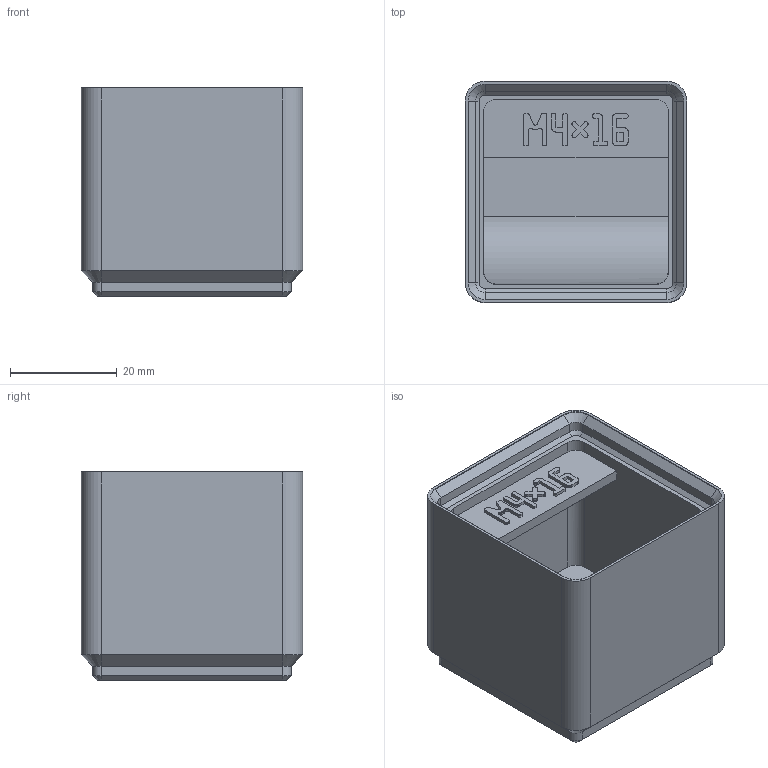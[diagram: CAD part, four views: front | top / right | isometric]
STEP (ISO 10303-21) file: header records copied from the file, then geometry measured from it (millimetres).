
FILE_DESCRIPTION(('Open CASCADE Model'),'2;1');
FILE_NAME('m4-screw-16','2026-11-17T16:08:15',('Author'),('Open CASCADE' ),'Open CASCADE STEP processor 8.0','build123d','Unknown');
FILE_SCHEMA(('AUTOMOTIVE_DESIGN { 1 0 10303 214 1 1 1 1 }'));
Length unit declared in the file: millimetre
Products named in the file (1): m4-screw-16
Bounding box: 41.5 x 41.5 x 39 mm (x, y, z)
Volume: 30861.3 mm3; surface area: 13676.6 mm2
Topology: 1 solids, 1 shells, 568 faces, 1626 edges, 1068 vertices
Faces by surface type: plane 529, cylinder 22, cone 16, extrusion 1
Entity records: 38528 total; most frequent: CARTESIAN_POINT 7986, DIRECTION 4955, VECTOR 3697, LINE 3696, ORIENTED_EDGE 3252, PCURVE 3252, DEFINITIONAL_REPRESENTATION 3252, EDGE_CURVE 1626
